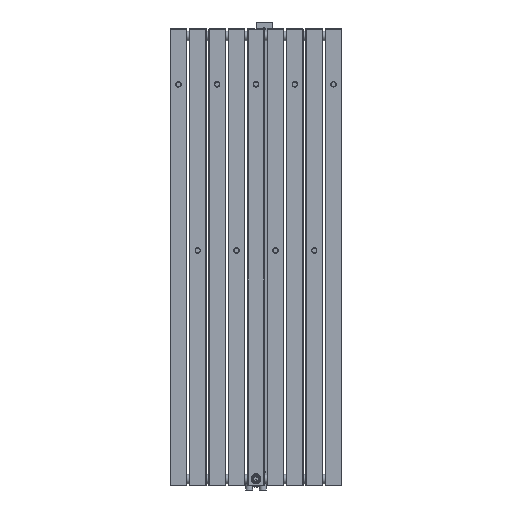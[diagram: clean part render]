
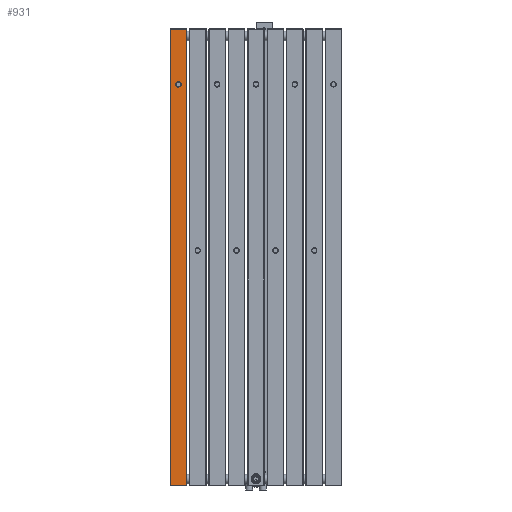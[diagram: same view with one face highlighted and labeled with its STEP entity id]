
A CAD part, front view. The second image highlights one B-rep face of the part: STEP entity #931.
In plain terms, the highlighted planar face has unit normal (0, -1, 0) as drawn and (0, 1, 0) by its records, which use the part's own axes.
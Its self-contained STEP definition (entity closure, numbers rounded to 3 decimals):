
#931 = ADVANCED_FACE( '', ( #2020 ), #2021, .F. );
#2020 = FACE_OUTER_BOUND( '', #3679, .T. );
#2021 = PLANE( '', #3680 );
#3679 = EDGE_LOOP( '', ( #6921, #6922, #6923, #6924 ) );
#3680 = AXIS2_PLACEMENT_3D( '', #6925, #6926, #6927 );
#6921 = ORIENTED_EDGE( '', *, *, #7594, .T. );
#6922 = ORIENTED_EDGE( '', *, *, #7427, .T. );
#6923 = ORIENTED_EDGE( '', *, *, #7489, .T. );
#6924 = ORIENTED_EDGE( '', *, *, #7618, .T. );
#6925 = CARTESIAN_POINT( '', ( 60., 10., 1650. ) );
#6926 = DIRECTION( '', ( 0., -1., 0. ) );
#6927 = DIRECTION( '', ( 0., 0., -1. ) );
#7427 = EDGE_CURVE( '', #8429, #8426, #8430, .F. );
#7489 = EDGE_CURVE( '', #8426, #8527, #8528, .T. );
#7594 = EDGE_CURVE( '', #8084, #8429, #8684, .F. );
#7618 = EDGE_CURVE( '', #8527, #8084, #8716, .T. );
#8084 = VERTEX_POINT( '', #11914 );
#8426 = VERTEX_POINT( '', #13794 );
#8429 = VERTEX_POINT( '', #13797 );
#8430 = LINE( '', #13798, #13799 );
#8527 = VERTEX_POINT( '', #14239 );
#8528 = LINE( '', #14240, #14241 );
#8684 = LINE( '', #14931, #14932 );
#8716 = LINE( '', #15034, #15035 );
#11914 = CARTESIAN_POINT( '', ( 1., 10., 1. ) );
#13794 = CARTESIAN_POINT( '', ( 59., 10., 1649. ) );
#13797 = CARTESIAN_POINT( '', ( 1., 10., 1649. ) );
#13798 = CARTESIAN_POINT( '', ( 59., 10., 1649. ) );
#13799 = VECTOR( '', #17041, 1000. );
#14239 = CARTESIAN_POINT( '', ( 59., 10., 1. ) );
#14240 = CARTESIAN_POINT( '', ( 59., 10., 1650. ) );
#14241 = VECTOR( '', #17108, 1000. );
#14931 = CARTESIAN_POINT( '', ( 1., 10., 1650. ) );
#14932 = VECTOR( '', #17236, 1000. );
#15034 = CARTESIAN_POINT( '', ( 60., 10., 1. ) );
#15035 = VECTOR( '', #17258, 1000. );
#17041 = DIRECTION( '', ( -1., 0., 0. ) );
#17108 = DIRECTION( '', ( 0., 0., -1. ) );
#17236 = DIRECTION( '', ( 0., 0., -1. ) );
#17258 = DIRECTION( '', ( -1., 0., 0. ) );
